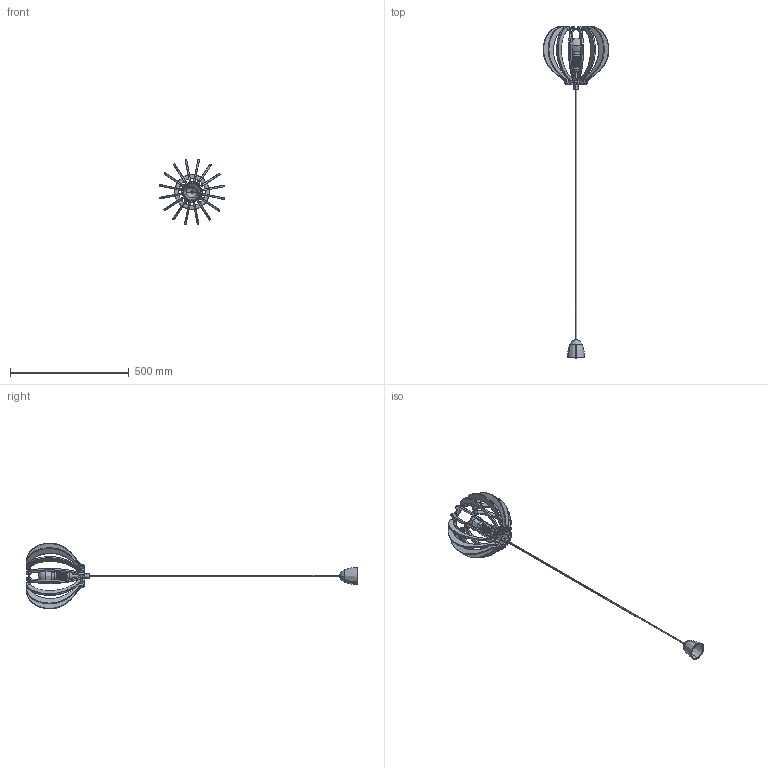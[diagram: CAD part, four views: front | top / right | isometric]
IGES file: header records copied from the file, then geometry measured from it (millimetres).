
Start section: SolidWorks IGES file using analytic representation for surfaces
Global section: file name: Z:\Modele 3D_WWW\_KOLEKCJE_WWW\IKA\IKA-C-4173\IKA-C-4173.IGS; native system: SolidWorks 2020; preprocessor: SolidWorks 2020; author: gabriela.tworek; date: 210323.200034; units: millimetre
Bounding box: 276.66 x 1397.91 x 276.66 mm (x, y, z)
Surface area: 410503.6 mm2 (no closed solid volume)
Topology: 0 solids, 0 shells, 517 faces, 8245 edges, 8225 vertices
Faces by surface type: bspline 306, revolution 211
